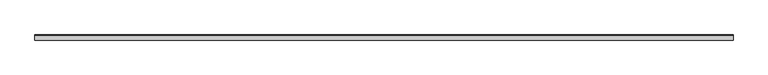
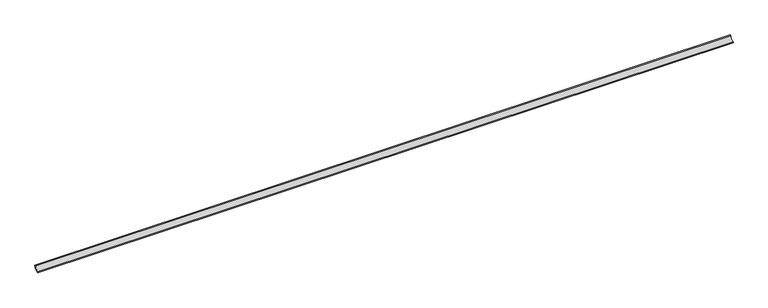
"""IFC4 building model written with IfcOpenShell, lengths in millimetres: proxy geometry, EXAGRES - Piscina Mediacaña : Nubia_33x4cm."""

from ifc_helpers import new_model, si_unit, point, frame, frame_2d, origin, place, context, project, spatial, polyline, circle_curve, trimmed, segment, composite_curve, outline, extrude, source, transform, mapped, element, save


def generic_models_158b5dbd(model_context):
    return source(origin(), model_context, "Body", "SweptSolid", [
        extrude(outline(composite_curve([segment(polyline([(0.0, 23.9), (6.4, 23.9)]), True, "CONTINUOUS"), segment(trimmed(circle_curve(frame_2d((-23.9, 23.9)), 30.3), [point((6.4, 23.9))], [point((-23.9, -6.4))], False, "CARTESIAN"), True, "CONTINUOUS"), segment(polyline([(-23.9, -6.4), (-23.9, 0.0)]), True, "CONTINUOUS"), segment(trimmed(circle_curve(frame_2d((-23.9, 23.9)), 23.9), [point((-23.9, 0.0))], [point((0.0, 23.9))], True, "CARTESIAN"), True, "CONTINUOUS")], self_intersect=False)), frame((0.0, 0.0, 0.0), z_axis=(1.0, 0.0, 0.0), x_axis=(0.0, 1.0, 0.0)), (0.0, 0.0, 1.0), 4123.1056256),
    ])


if __name__ == "__main__":
    model = new_model("IFC4")
    model_context = context("Model", 3, world=origin())
    ifc_project = project(units=[si_unit("LENGTHUNIT", "METRE", prefix="MILLI")], contexts=[model_context])
    site = spatial("IfcSite", under=ifc_project)
    building = spatial("IfcBuilding", under=site)
    placement = place(None, origin())
    generic_models_shape = generic_models_158b5dbd(model_context)
    element("IfcBuildingElementProxy", 1, Name="EXAGRES - Piscina Mediacaña : Nubia_33x4cm", ObjectType="EXAGRES - Piscina Mediacaña : Nubia_33x4cm", at=placement, inside=building, context=model_context, shape_type="MappedRepresentation", body=[
        mapped(generic_models_shape, transform((0.0, 0.0, 0.0), x_axis=(1.0, 0.0, 0.0), y_axis=(0.0, 1.0, 0.0), z_axis=(0.0, 0.0, 1.0))),
    ])
    save(model, "model.ifc")
